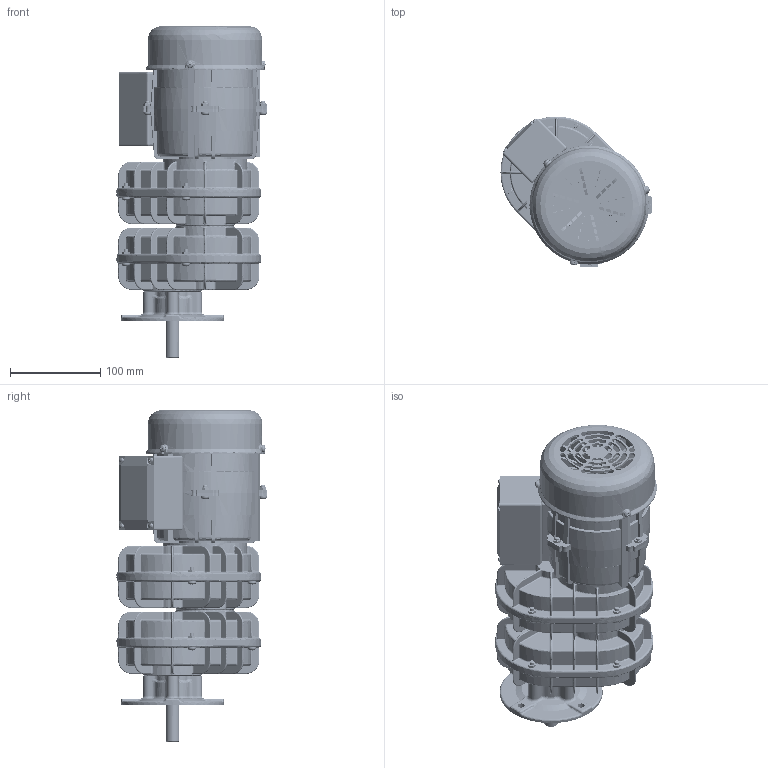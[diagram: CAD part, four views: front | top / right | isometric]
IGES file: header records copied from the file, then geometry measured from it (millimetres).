
Global section: file name: Montagem red. 5rpm_Substitute_2; native system: Autodesk Inventor 2015; preprocessor: unknown; author: User; date: 20180209.163356; units: inch
Bounding box: 167.31 x 167.31 x 367.85 mm (x, y, z)
Volume: 28380.8 mm3; surface area: 610398.8 mm2
Topology: 15 solids, 19 shells, 5229 faces, 13186 edges, 8046 vertices
Faces by surface type: bspline 5229
